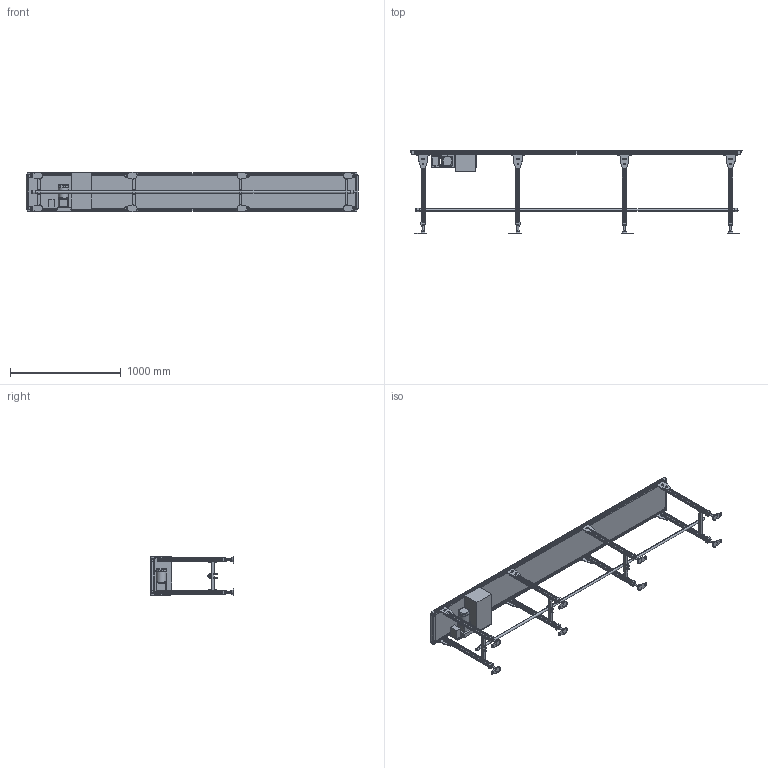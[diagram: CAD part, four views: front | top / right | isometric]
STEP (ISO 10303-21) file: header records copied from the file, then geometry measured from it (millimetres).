
FILE_DESCRIPTION( (''), '2;1');
FILE_NAME ('MKE3-309-300-300-K-180-O.stp','2025-02-04T11:02:11',(''),(''),'spGate 20.6.2 (****-****-****-****)','','');
FILE_SCHEMA (('AUTOMOTIVE_DESIGN'));
Length unit declared in the file: millimetre
Products named in the file (59): NewModel; TEMP_X_T-prt0; TEMP_X_T-prt1; TEMP_X_T-prt2; TEMP_X_T-prt3; TEMP_X_T-prt4; TEMP_X_T-prt5; TEMP_X_T-prt6; TEMP_X_T-prt7; TEMP_X_T-prt8; TEMP_X_T-prt9; TEMP_X_T-prt10; TEMP_X_T-prt11; TEMP_X_T-prt12; TEMP_X_T-prt13; TEMP_X_T-prt14; TEMP_X_T-prt15; TEMP_X_T-prt16; TEMP_X_T-prt17; TEMP_X_T-prt18; TEMP_X_T-prt19; TEMP_X_T-prt20; TEMP_X_T-prt21; TEMP_X_T-prt22; TEMP_X_T-prt23; TEMP_X_T-prt24; TEMP_X_T-prt25; TEMP_X_T-prt26; TEMP_X_T-prt27; TEMP_X_T-prt28; TEMP_X_T-prt29; TEMP_X_T-prt30; TEMP_X_T-prt31; TEMP_X_T-prt32; TEMP_X_T-prt33; TEMP_X_T-prt34; TEMP_X_T-prt35; TEMP_X_T-prt36; TEMP_X_T-prt37; TEMP_X_T-prt38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
Assembly tree (58 placements, depth 2):
  NewModel
    TEMP_X_T-prt0
    TEMP_X_T-prt1
    TEMP_X_T-prt2
    TEMP_X_T-prt3
    TEMP_X_T-prt4
    TEMP_X_T-prt5
    TEMP_X_T-prt6
    TEMP_X_T-prt7
    TEMP_X_T-prt8
    TEMP_X_T-prt9
    TEMP_X_T-prt10
    TEMP_X_T-prt11
    TEMP_X_T-prt12
    TEMP_X_T-prt13
    TEMP_X_T-prt14
    TEMP_X_T-prt15
    TEMP_X_T-prt16
    TEMP_X_T-prt17
    TEMP_X_T-prt18
    TEMP_X_T-prt19
    TEMP_X_T-prt20
    TEMP_X_T-prt21
    TEMP_X_T-prt22
    TEMP_X_T-prt23
    TEMP_X_T-prt24
    TEMP_X_T-prt25
    TEMP_X_T-prt26
    TEMP_X_T-prt27
    TEMP_X_T-prt28
    TEMP_X_T-prt29
    TEMP_X_T-prt30
    TEMP_X_T-prt31
    TEMP_X_T-prt32
    TEMP_X_T-prt33
    TEMP_X_T-prt34
    TEMP_X_T-prt35
    TEMP_X_T-prt36
    TEMP_X_T-prt37
    TEMP_X_T-prt38
    TEMP_X_T-prt39
    TEMP_X_T-prt40
    TEMP_X_T-prt41
    TEMP_X_T-prt42
    TEMP_X_T-prt43
    TEMP_X_T-prt44
    TEMP_X_T-prt45
    TEMP_X_T-prt46
    TEMP_X_T-prt47
    TEMP_X_T-prt48
    TEMP_X_T-prt49
    TEMP_X_T-prt50
    TEMP_X_T-prt51
    TEMP_X_T-prt52
    TEMP_X_T-prt53
    TEMP_X_T-prt54
    TEMP_X_T-prt55
    TEMP_X_T-prt56
    TEMP_X_T-prt57
Bounding box: 3002.36 x 751.2 x 359.2 mm (x, y, z)
Volume: 27295968.2 mm3; surface area: 8828673.5 mm2
Topology: 58 solids, 58 shells, 2682 faces, 6726 edges, 4306 vertices
Faces by surface type: plane 1904, cylinder 571, bspline 202, sphere 5
Entity records: 139439 total; most frequent: CARTESIAN_POINT 18282, ORIENTED_EDGE 13428, DIRECTION 13263, COLOUR_RGB 9454, PRESENTATION_STYLE_ASSIGNMENT 9454, STYLED_ITEM 9454, EDGE_CURVE 6714, DRAUGHTING_PRE_DEFINED_CURVE_FONT 6714
